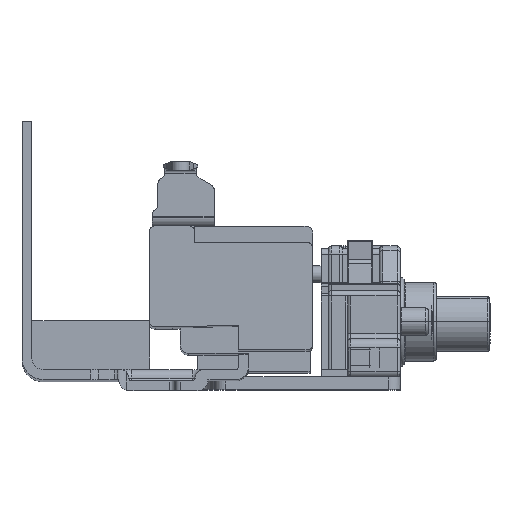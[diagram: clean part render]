
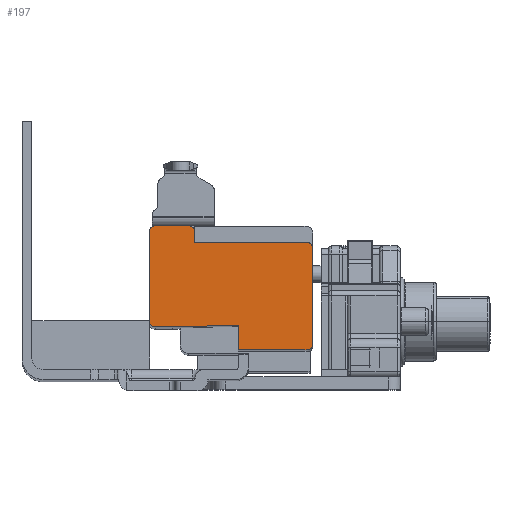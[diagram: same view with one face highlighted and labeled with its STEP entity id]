
A CAD part, top view. The second image highlights one B-rep face of the part: STEP entity #197.
In plain terms, the highlighted planar face has unit normal (0, 0, 1).
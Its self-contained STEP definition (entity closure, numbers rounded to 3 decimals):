
#182 = EDGE_CURVE ( 'NONE', #5201, #6208, #11045, .T. ) ;
#197 = ADVANCED_FACE ( 'NONE', ( #5513 ), #5276, .T. ) ;
#265 = DIRECTION ( 'NONE',  ( 1., 0., 0. ) ) ;
#489 = ORIENTED_EDGE ( 'NONE', *, *, #681, .F. ) ;
#681 = EDGE_CURVE ( 'NONE', #7447, #17848, #10574, .T. ) ;
#709 = VERTEX_POINT ( 'NONE', #8115 ) ;
#1009 = AXIS2_PLACEMENT_3D ( 'NONE', #16493, #8108, #17968 ) ;
#1079 = VERTEX_POINT ( 'NONE', #12224 ) ;
#1292 = EDGE_CURVE ( 'NONE', #1079, #9967, #13689, .T. ) ;
#1338 = ORIENTED_EDGE ( 'NONE', *, *, #9952, .T. ) ;
#1375 = CARTESIAN_POINT ( 'NONE',  ( 5.324, -15.266, -18.7 ) ) ;
#1519 = CARTESIAN_POINT ( 'NONE',  ( 9.8, 1.778, -18.7 ) ) ;
#1811 = LINE ( 'NONE', #9539, #13025 ) ;
#1854 = CIRCLE ( 'NONE', #5348, 0.97 ) ;
#1912 = ORIENTED_EDGE ( 'NONE', *, *, #13324, .T. ) ;
#2156 = VECTOR ( 'NONE', #17107, 1000. ) ;
#2490 = CARTESIAN_POINT ( 'NONE',  ( 2.8, 1.748, -18.7 ) ) ;
#2532 = EDGE_CURVE ( 'NONE', #709, #17848, #14654, .T. ) ;
#2675 = CIRCLE ( 'NONE', #14720, 0.97 ) ;
#2739 = DIRECTION ( 'NONE',  ( 0., -1., 0. ) ) ;
#2825 = ORIENTED_EDGE ( 'NONE', *, *, #6079, .T. ) ;
#2915 = ORIENTED_EDGE ( 'NONE', *, *, #14294, .T. ) ;
#2959 = DIRECTION ( 'NONE',  ( 0., 0., 1. ) ) ;
#2996 = VERTEX_POINT ( 'NONE', #11216 ) ;
#3067 = ORIENTED_EDGE ( 'NONE', *, *, #2532, .T. ) ;
#3075 = ORIENTED_EDGE ( 'NONE', *, *, #11443, .T. ) ;
#3076 = EDGE_CURVE ( 'NONE', #14557, #3392, #6263, .T. ) ;
#3197 = VECTOR ( 'NONE', #7201, 1000. ) ;
#3259 = LINE ( 'NONE', #7758, #17773 ) ;
#3392 = VERTEX_POINT ( 'NONE', #6764 ) ;
#3498 = AXIS2_PLACEMENT_3D ( 'NONE', #17123, #8677, #265 ) ;
#3694 = VECTOR ( 'NONE', #11209, 1000. ) ;
#3698 = ORIENTED_EDGE ( 'NONE', *, *, #18231, .T. ) ;
#3704 = VERTEX_POINT ( 'NONE', #16034 ) ;
#3773 = CARTESIAN_POINT ( 'NONE',  ( 4.965, -19.352, -18.7 ) ) ;
#3885 = DIRECTION ( 'NONE',  ( 1., 0., 0. ) ) ;
#4224 = CARTESIAN_POINT ( 'NONE',  ( 29.86, -1.222, -18.7 ) ) ;
#4420 = CARTESIAN_POINT ( 'NONE',  ( 8.83, 1.778, -18.7 ) ) ;
#5118 = CARTESIAN_POINT ( 'NONE',  ( 2.8, 2.748, -18.7 ) ) ;
#5201 = VERTEX_POINT ( 'NONE', #5118 ) ;
#5276 = PLANE ( 'NONE',  #1009 ) ;
#5348 = AXIS2_PLACEMENT_3D ( 'NONE', #4224, #14048, #5611 ) ;
#5513 = FACE_OUTER_BOUND ( 'NONE', #11185, .T. ) ;
#5611 = DIRECTION ( 'NONE',  ( 1., 0., 0. ) ) ;
#5822 = DIRECTION ( 'NONE',  ( 1., 0., 0. ) ) ;
#6079 = EDGE_CURVE ( 'NONE', #6208, #14557, #12941, .T. ) ;
#6208 = VERTEX_POINT ( 'NONE', #15976 ) ;
#6263 = CIRCLE ( 'NONE', #3498, 1. ) ;
#6271 = EDGE_CURVE ( 'NONE', #14120, #5201, #3259, .T. ) ;
#6764 = CARTESIAN_POINT ( 'NONE',  ( 2.8, -15.252, -18.7 ) ) ;
#6864 = VERTEX_POINT ( 'NONE', #10464 ) ;
#7133 = DIRECTION ( 'NONE',  ( 0., 1., 0. ) ) ;
#7201 = DIRECTION ( 'NONE',  ( 1., 0., 0. ) ) ;
#7352 = LINE ( 'NONE', #14212, #3197 ) ;
#7447 = VERTEX_POINT ( 'NONE', #7775 ) ;
#7606 = VECTOR ( 'NONE', #2739, 1000. ) ;
#7758 = CARTESIAN_POINT ( 'NONE',  ( 7.6, 2.748, -18.7 ) ) ;
#7775 = CARTESIAN_POINT ( 'NONE',  ( 29.83, -19.352, -18.7 ) ) ;
#7981 = CARTESIAN_POINT ( 'NONE',  ( 8.83, 2.748, -18.7 ) ) ;
#8081 = CARTESIAN_POINT ( 'NONE',  ( 30.83, -13.752, -18.7 ) ) ;
#8108 = DIRECTION ( 'NONE',  ( 0., 0., 1. ) ) ;
#8115 = CARTESIAN_POINT ( 'NONE',  ( 17.63, -14.951, -18.7 ) ) ;
#8337 = EDGE_CURVE ( 'NONE', #1079, #2996, #7352, .T. ) ;
#8677 = DIRECTION ( 'NONE',  ( 0., 0., 1. ) ) ;
#8900 = EDGE_CURVE ( 'NONE', #3704, #10540, #17253, .T. ) ;
#9258 = CARTESIAN_POINT ( 'NONE',  ( 1.8, -14.252, -18.7 ) ) ;
#9539 = CARTESIAN_POINT ( 'NONE',  ( 4.965, -15.252, -18.7 ) ) ;
#9952 = EDGE_CURVE ( 'NONE', #7447, #3704, #10792, .T. ) ;
#9967 = VERTEX_POINT ( 'NONE', #1519 ) ;
#10140 = CARTESIAN_POINT ( 'NONE',  ( 17.63, -19.352, -18.7 ) ) ;
#10464 = CARTESIAN_POINT ( 'NONE',  ( 5.87, -15.252, -18.7 ) ) ;
#10540 = VERTEX_POINT ( 'NONE', #11395 ) ;
#10574 = LINE ( 'NONE', #3773, #17617 ) ;
#10792 = CIRCLE ( 'NONE', #15523, 1. ) ;
#11045 = CIRCLE ( 'NONE', #15508, 1. ) ;
#11177 = LINE ( 'NONE', #1375, #3694 ) ;
#11185 = EDGE_LOOP ( 'NONE', ( #2825, #14152, #1912, #3075, #3067, #489, #1338, #17431, #3698, #16908, #11956, #2915, #17938, #11827 ) ) ;
#11209 = DIRECTION ( 'NONE',  ( 1., 0.026, 0. ) ) ;
#11216 = CARTESIAN_POINT ( 'NONE',  ( 29.86, -0.252, -18.7 ) ) ;
#11353 = CARTESIAN_POINT ( 'NONE',  ( 29.83, -18.352, -18.7 ) ) ;
#11395 = CARTESIAN_POINT ( 'NONE',  ( 30.83, -1.222, -18.7 ) ) ;
#11443 = EDGE_CURVE ( 'NONE', #6864, #709, #11177, .T. ) ;
#11827 = ORIENTED_EDGE ( 'NONE', *, *, #182, .T. ) ;
#11956 = ORIENTED_EDGE ( 'NONE', *, *, #1292, .T. ) ;
#12224 = CARTESIAN_POINT ( 'NONE',  ( 9.8, -0.252, -18.7 ) ) ;
#12257 = DIRECTION ( 'NONE',  ( -1., 0., 0. ) ) ;
#12318 = DIRECTION ( 'NONE',  ( 0., 0., 1. ) ) ;
#12365 = DIRECTION ( 'NONE',  ( 1., 0., 0. ) ) ;
#12559 = CARTESIAN_POINT ( 'NONE',  ( 17.63, -1.252, -18.7 ) ) ;
#12783 = DIRECTION ( 'NONE',  ( 1., 0., 0. ) ) ;
#12923 = CARTESIAN_POINT ( 'NONE',  ( 1.8, -6.222, -18.7 ) ) ;
#12941 = LINE ( 'NONE', #12923, #2156 ) ;
#13025 = VECTOR ( 'NONE', #12365, 1000. ) ;
#13324 = EDGE_CURVE ( 'NONE', #3392, #6864, #1811, .T. ) ;
#13513 = VECTOR ( 'NONE', #16527, 1000. ) ;
#13689 = LINE ( 'NONE', #14201, #14105 ) ;
#14048 = DIRECTION ( 'NONE',  ( 0., 0., 1. ) ) ;
#14105 = VECTOR ( 'NONE', #7133, 1000. ) ;
#14120 = VERTEX_POINT ( 'NONE', #7981 ) ;
#14152 = ORIENTED_EDGE ( 'NONE', *, *, #3076, .T. ) ;
#14201 = CARTESIAN_POINT ( 'NONE',  ( 9.8, -0.252, -18.7 ) ) ;
#14212 = CARTESIAN_POINT ( 'NONE',  ( 0., -0.252, -18.7 ) ) ;
#14250 = DIRECTION ( 'NONE',  ( 0., 0., 1. ) ) ;
#14294 = EDGE_CURVE ( 'NONE', #9967, #14120, #2675, .T. ) ;
#14557 = VERTEX_POINT ( 'NONE', #9258 ) ;
#14654 = LINE ( 'NONE', #12559, #7606 ) ;
#14720 = AXIS2_PLACEMENT_3D ( 'NONE', #4420, #14250, #5822 ) ;
#15508 = AXIS2_PLACEMENT_3D ( 'NONE', #2490, #12318, #3885 ) ;
#15523 = AXIS2_PLACEMENT_3D ( 'NONE', #11353, #2959, #12783 ) ;
#15976 = CARTESIAN_POINT ( 'NONE',  ( 1.8, 1.748, -18.7 ) ) ;
#16034 = CARTESIAN_POINT ( 'NONE',  ( 30.83, -18.352, -18.7 ) ) ;
#16493 = CARTESIAN_POINT ( 'NONE',  ( 29.83, -13.752, -18.7 ) ) ;
#16527 = DIRECTION ( 'NONE',  ( 0., 1., 0. ) ) ;
#16908 = ORIENTED_EDGE ( 'NONE', *, *, #8337, .F. ) ;
#17107 = DIRECTION ( 'NONE',  ( 0., -1., 0. ) ) ;
#17123 = CARTESIAN_POINT ( 'NONE',  ( 2.8, -14.252, -18.7 ) ) ;
#17253 = LINE ( 'NONE', #8081, #13513 ) ;
#17431 = ORIENTED_EDGE ( 'NONE', *, *, #8900, .T. ) ;
#17615 = DIRECTION ( 'NONE',  ( -1., 0., 0. ) ) ;
#17617 = VECTOR ( 'NONE', #12257, 1000. ) ;
#17773 = VECTOR ( 'NONE', #17615, 1000. ) ;
#17848 = VERTEX_POINT ( 'NONE', #10140 ) ;
#17938 = ORIENTED_EDGE ( 'NONE', *, *, #6271, .T. ) ;
#17968 = DIRECTION ( 'NONE',  ( 1., 0., 0. ) ) ;
#18231 = EDGE_CURVE ( 'NONE', #10540, #2996, #1854, .T. ) ;
